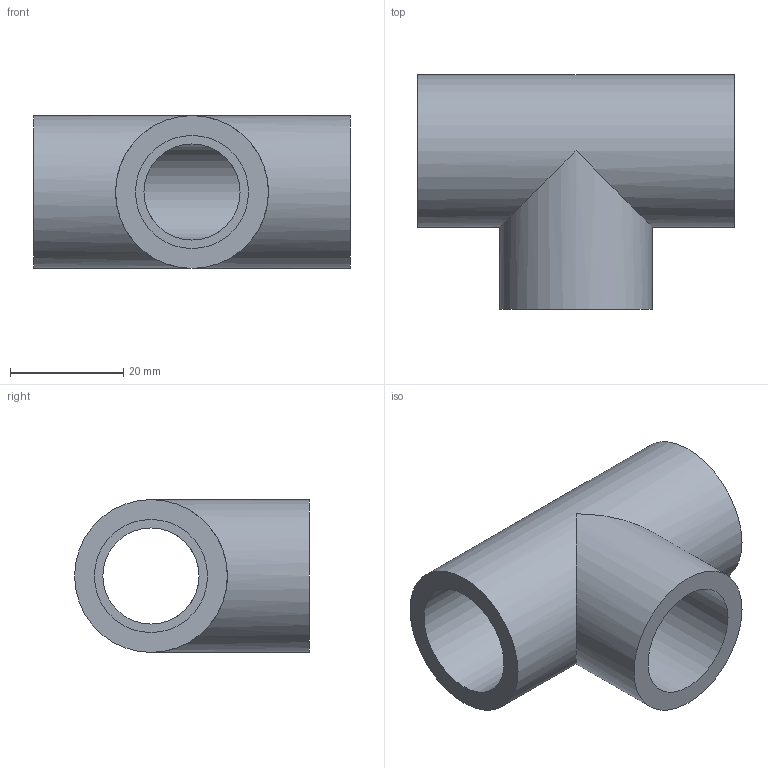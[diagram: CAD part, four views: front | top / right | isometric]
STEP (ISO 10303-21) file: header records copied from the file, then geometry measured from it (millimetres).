
FILE_DESCRIPTION(/* description */ ('PVC ti a 90° incollaggio metrico'),/* implementation_level */ '2;1');
FILE_NAME(/* name */ 'C:\Users\POLYPIPE\Desktop\DATASET INVENTOR\LIBRERIA EFFAST\RACCORDI 3DxWEB\RDR\3D_RDRTID\3D_RDRTID0200.stp',/* time_stamp */ '2018-01-19T15:37:42+01:00',/* author */ ('POLYPIPE'),/* organization */ ('Polypipe Italia s.r.l.'),/* preprocessor_version */ 'ST-DEVELOPER v16.1',/* originating_system */ 'Autodesk Inventor 2016',/* authorisation */ '');
FILE_SCHEMA (('CONFIG_CONTROL_DESIGN'));
Length unit declared in the file: millimetre
Products named in the file (1): 3D_RDRTID
Bounding box: 56 x 41.5 x 27 mm (x, y, z)
Volume: 19658.8 mm3; surface area: 11092.7 mm2
Topology: 1 solids, 1 shells, 13 faces, 25 edges, 18 vertices
Faces by surface type: cylinder 7, plane 6
Full cylindrical faces by diameter (mm): 17 x2, 20 x3, 27 x2
Entity records: 326 total; most frequent: DIRECTION 60, CARTESIAN_POINT 46, ORIENTED_EDGE 32, AXIS2_PLACEMENT_3D 30, EDGE_LOOP 28, VERTEX_POINT 16, EDGE_CURVE 16, FACE_BOUND 15
